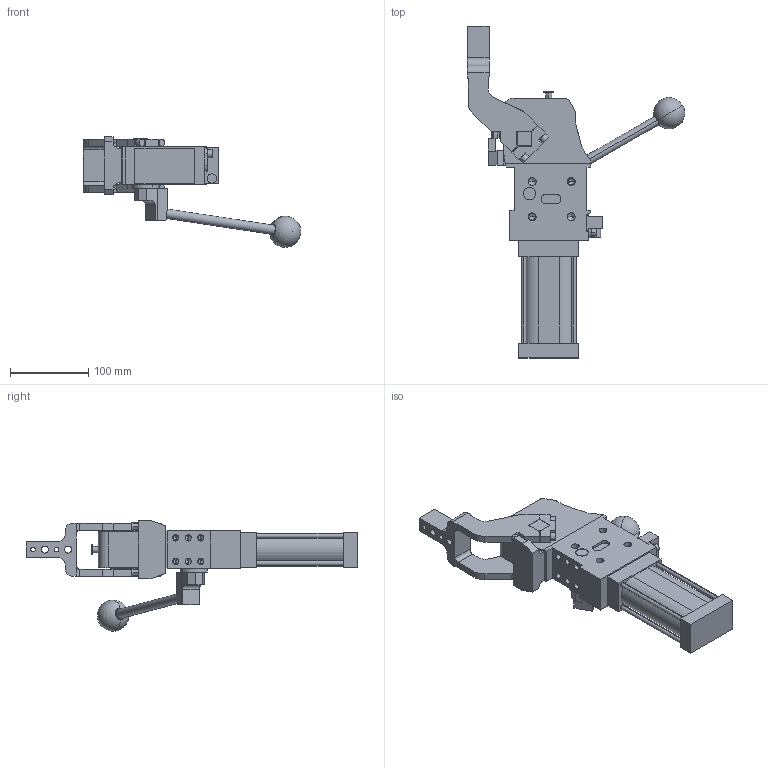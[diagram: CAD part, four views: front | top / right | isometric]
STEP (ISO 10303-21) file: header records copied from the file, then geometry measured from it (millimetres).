
FILE_DESCRIPTION (( 'STEP AP214' ), '1' );
FILE_NAME ('cplm50lbth3ci1g_107.STEP', '2023-01-26T14:04:51', ( '' ), ( '' ), 'SwSTEP 2.0', 'SolidWorks 2022', '' );
FILE_SCHEMA (( 'AUTOMOTIVE_DESIGN' ));
Length unit declared in the file: millimetre
Products named in the file (5): leva_h3c_cpl50t; cplm50lbth3ci1g_107; blocchetto_VEP_0; comando_manuale_cplm_50; meccanica_cplm_50_tassello_esterno
Assembly tree (4 placements, depth 2):
  cplm50lbth3ci1g_107
    meccanica_cplm_50_tassello_esterno
    blocchetto_VEP_0
    leva_h3c_cpl50t
    comando_manuale_cplm_50
Bounding box: 277.96 x 424.5 x 141.5 mm (x, y, z)
Volume: 1504345 mm3; surface area: 190398.8 mm2
Topology: 4 solids, 4 shells, 468 faces, 1213 edges, 761 vertices
Faces by surface type: plane 247, cylinder 169, cone 50, sphere 2
Entity records: 15548 total; most frequent: CARTESIAN_POINT 2483, DIRECTION 2460, ORIENTED_EDGE 2324, EDGE_CURVE 1162, AXIS2_PLACEMENT_3D 833, LINE 794, VECTOR 794, VERTEX_POINT 758
